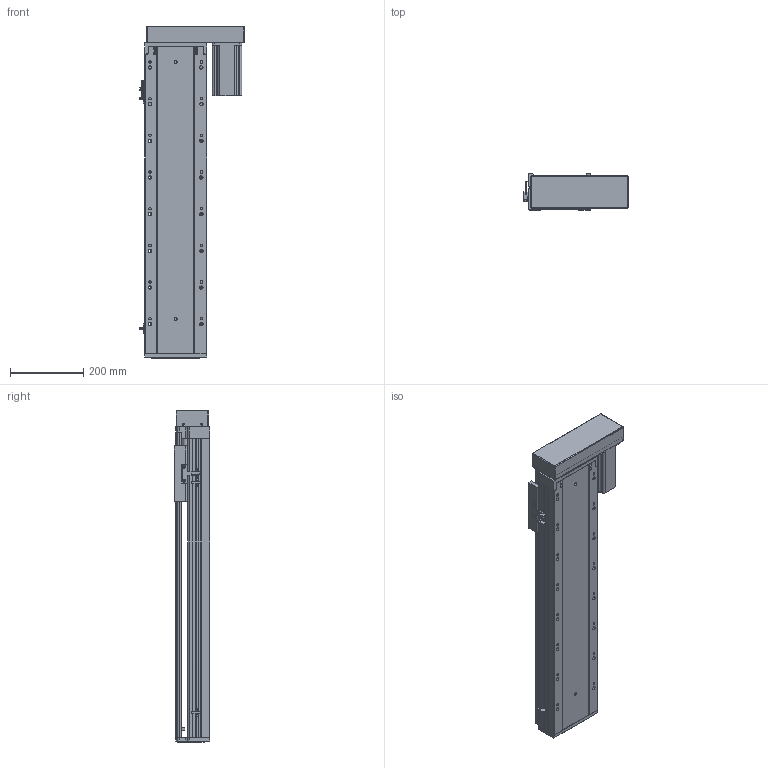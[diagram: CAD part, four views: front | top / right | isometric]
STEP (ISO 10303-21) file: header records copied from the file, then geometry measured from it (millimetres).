
FILE_DESCRIPTION (( 'STEP AP203' ), '1' );
FILE_NAME ('RY170-L2510-300-RK.SLDASM_600.step', '2021-03-12T09:19:23', ( '盈信电脑' ), ( '东莞市道滘镇水果街19号' ), 'SwSTEP 2.0', 'SolidWorks 2012', '' );
FILE_SCHEMA (( 'CONFIG_CONTROL_DESIGN' ));
Products named in the file (14): RY170綴裔啣; 滅袉蝶18-20; RY170-300倰第裔啣-RK_600; 滅袉蝶18-10; 改造-RY170铝滑块25丝杆螺母; RY170外置感应片(200共用）; 覜茼ん672; RY170-L2510-300-RK.SLDASM_600; RY170酘衵殏萇儂欶750W; RY170-左右折电机安装板750W; 怢湛750W萇儂ㄗ80遺ㄘ; RY170-酘衵殏750W萇儂傷; RY170转折电机端支撑座(7004); RY170-300倰第菁釱-RK_600
Assembly tree (15 placements, depth 3):
  RY170-L2510-300-RK.SLDASM_600
    RY170-300倰第菁釱-RK_600
    改造-RY170铝滑块25丝杆螺母
    RY170-300倰第裔啣-RK_600
    RY170綴裔啣
    滅袉蝶18-20
    滅袉蝶18-10
    RY170转折电机端支撑座(7004)
    RY170-酘衵殏750W萇儂傷
      RY170-左右折电机安装板750W
      RY170酘衵殏萇儂欶750W
      怢湛750W萇儂ㄗ80遺ㄘ
    覜茼ん672  x3
    RY170外置感应片(200共用）
Bounding box: 286.2 x 97 x 905 mm (x, y, z)
Volume: 5532526.6 mm3; surface area: 1664172.3 mm2
Topology: 14 solids, 14 shells, 2163 faces, 6226 edges, 4014 vertices
Faces by surface type: plane 1088, cylinder 898, cone 158, bspline 19
Entity records: 70443 total; most frequent: CARTESIAN_POINT 17060, ORIENTED_EDGE 11228, DIRECTION 10324, EDGE_CURVE 5614, VERTEX_POINT 3694, LINE 3452, VECTOR 3452, AXIS2_PLACEMENT_3D 3436
